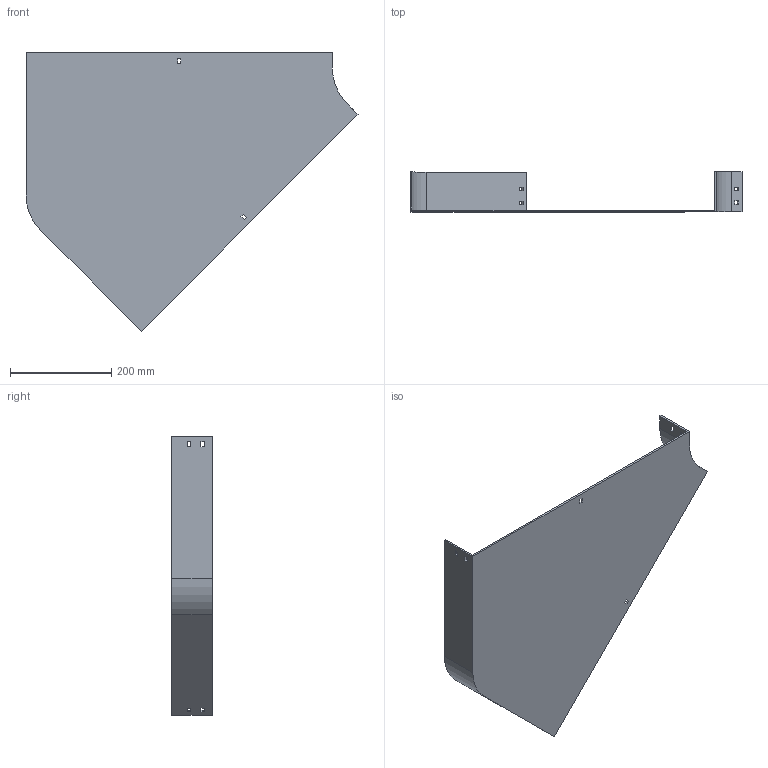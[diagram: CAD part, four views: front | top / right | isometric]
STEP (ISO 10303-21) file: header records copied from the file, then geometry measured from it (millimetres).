
FILE_DESCRIPTION (( 'STEP AP214' ), '1' );
FILE_NAME ('11F1C600.step', '2025-02-21T12:56:19', ( '' ), ( '' ), 'SwSTEP 2.0', 'SolidWorks 2023', '' );
FILE_SCHEMA (( 'AUTOMOTIVE_DESIGN' ));
Length unit declared in the file: millimetre
Products named in the file (1): 11F1C600
Bounding box: 654.5 x 79 x 549.02 mm (x, y, z)
Volume: 1033932.1 mm3; surface area: 599993.4 mm2
Topology: 1 solids, 1 shells, 58 faces, 168 edges, 112 vertices
Faces by surface type: plane 54, cylinder 4
Entity records: 1943 total; most frequent: CARTESIAN_POINT 339, ORIENTED_EDGE 336, DIRECTION 294, EDGE_CURVE 168, LINE 160, VECTOR 160, VERTEX_POINT 112, EDGE_LOOP 78
